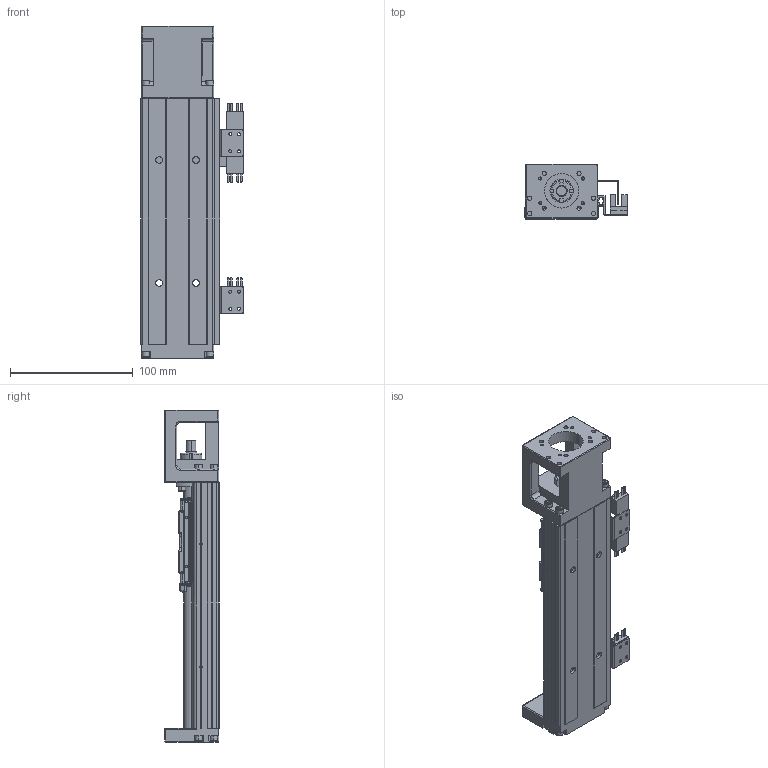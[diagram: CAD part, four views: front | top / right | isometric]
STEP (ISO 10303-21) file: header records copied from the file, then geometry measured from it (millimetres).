
FILE_DESCRIPTION (( 'STEP AP214' ), '1' );
FILE_NAME ('SFKK60-200A1-F0.STEP', '2023-02-17T01:37:25', ( '微软用户' ), ( '微软中国' ), 'SwSTEP 2.0', 'SolidWorks 2018', '' );
FILE_SCHEMA (( 'AUTOMOTIVE_DESIGN' ));
Length unit declared in the file: millimetre
Products named in the file (9): SFKK60-LR 憤癹寢耋_200; SFKK60-A1; 蚐郲; 开关固定座：KK-674S2-F; 不带盖挡光片：KK-60-S2-D2; SFKK60-200A1-F0; SX674嫖萇羲壽; SFKK60-F0_200; 极限轨道与开关固定座组合_200
Assembly tree (11 placements, depth 3):
  SFKK60-200A1-F0
    SFKK60-F0_200
    SFKK60-A1
    蚐郲
    极限轨道与开关固定座组合_200
      SFKK60-LR 憤癹寢耋_200
      开关固定座：KK-674S2-F  x2
    SX674嫖萇羲壽  x3
    不带盖挡光片：KK-60-S2-D2
Bounding box: 83.4 x 44.5 x 270 mm (x, y, z)
Volume: 322608.4 mm3; surface area: 123384 mm2
Topology: 27 solids, 27 shells, 1455 faces, 3806 edges, 2437 vertices
Faces by surface type: plane 761, cylinder 535, cone 88, torus 57, sphere 10, bspline 4
Entity records: 53364 total; most frequent: CARTESIAN_POINT 9902, DIRECTION 7179, ORIENTED_EDGE 6916, EDGE_CURVE 3458, AXIS2_PLACEMENT_3D 2502, VERTEX_POINT 2239, VECTOR 2175, LINE 2175
